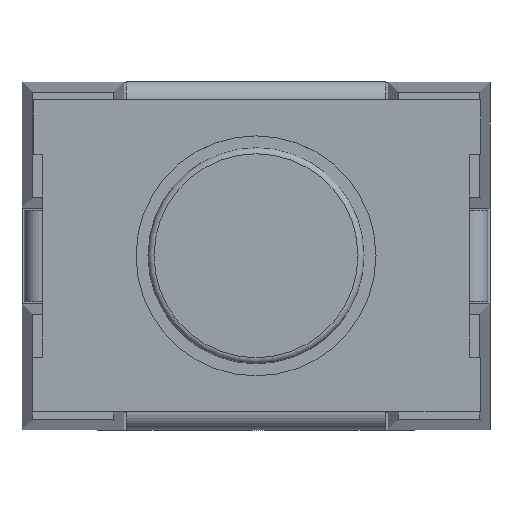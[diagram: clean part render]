
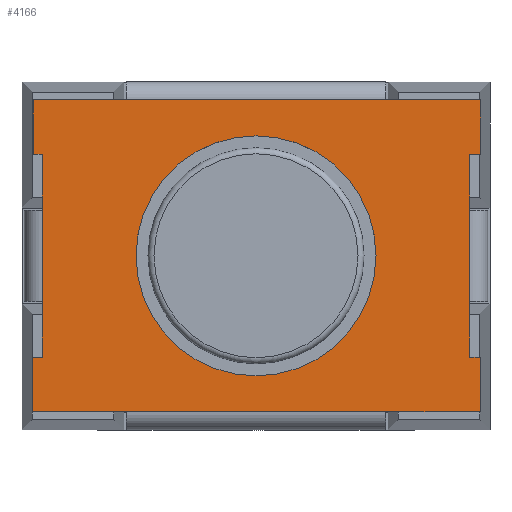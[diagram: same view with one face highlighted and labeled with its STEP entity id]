
A CAD part, top view. The second image highlights one B-rep face of the part: STEP entity #4166.
In plain terms, the highlighted planar face has unit normal (0, 0, 1).
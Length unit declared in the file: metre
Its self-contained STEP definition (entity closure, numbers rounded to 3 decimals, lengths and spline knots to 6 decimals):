
#99=CIRCLE('',#5727,0.001);
#228=LINE('',#7775,#719);
#230=LINE('',#7784,#721);
#232=LINE('',#7793,#723);
#234=LINE('',#7802,#725);
#376=LINE('',#8158,#867);
#379=LINE('',#8164,#870);
#382=LINE('',#8170,#873);
#386=LINE('',#8177,#877);
#393=LINE('',#8190,#884);
#396=LINE('',#8196,#887);
#399=LINE('',#8202,#890);
#403=LINE('',#8209,#894);
#412=LINE('',#8225,#903);
#415=LINE('',#8231,#906);
#419=LINE('',#8239,#910);
#423=LINE('',#8246,#914);
#430=LINE('',#8259,#921);
#434=LINE('',#8267,#925);
#437=LINE('',#8273,#928);
#442=LINE('',#8282,#933);
#719=VECTOR('',#6051,1.);
#721=VECTOR('',#6059,1.);
#723=VECTOR('',#6067,1.);
#725=VECTOR('',#6075,1.);
#867=VECTOR('',#6397,1.);
#870=VECTOR('',#6402,1.);
#873=VECTOR('',#6407,1.);
#877=VECTOR('',#6413,1.);
#884=VECTOR('',#6428,1.);
#887=VECTOR('',#6433,1.);
#890=VECTOR('',#6438,1.);
#894=VECTOR('',#6444,1.);
#903=VECTOR('',#6461,1.);
#906=VECTOR('',#6466,1.);
#910=VECTOR('',#6472,1.);
#914=VECTOR('',#6478,1.);
#921=VECTOR('',#6493,1.);
#925=VECTOR('',#6499,1.);
#928=VECTOR('',#6504,1.);
#933=VECTOR('',#6511,1.);
#1817=ORIENTED_EDGE('',*,*,#2634,.F.);
#1818=ORIENTED_EDGE('',*,*,#2580,.T.);
#1819=ORIENTED_EDGE('',*,*,#2387,.T.);
#1820=ORIENTED_EDGE('',*,*,#2573,.T.);
#1821=ORIENTED_EDGE('',*,*,#2569,.T.);
#1822=ORIENTED_EDGE('',*,*,#2566,.T.);
#1823=ORIENTED_EDGE('',*,*,#2563,.T.);
#1824=ORIENTED_EDGE('',*,*,#2383,.T.);
#1825=ORIENTED_EDGE('',*,*,#2629,.T.);
#1826=ORIENTED_EDGE('',*,*,#2624,.T.);
#1827=ORIENTED_EDGE('',*,*,#2621,.T.);
#1828=ORIENTED_EDGE('',*,*,#2617,.T.);
#1829=ORIENTED_EDGE('',*,*,#2379,.T.);
#1830=ORIENTED_EDGE('',*,*,#2610,.T.);
#1831=ORIENTED_EDGE('',*,*,#2606,.T.);
#1832=ORIENTED_EDGE('',*,*,#2602,.T.);
#1833=ORIENTED_EDGE('',*,*,#2599,.T.);
#1834=ORIENTED_EDGE('',*,*,#2375,.T.);
#1835=ORIENTED_EDGE('',*,*,#2590,.T.);
#1836=ORIENTED_EDGE('',*,*,#2586,.T.);
#1837=ORIENTED_EDGE('',*,*,#2583,.T.);
#2375=EDGE_CURVE('',#2887,#2889,#228,.T.);
#2379=EDGE_CURVE('',#2891,#2893,#230,.T.);
#2383=EDGE_CURVE('',#2895,#2897,#232,.T.);
#2387=EDGE_CURVE('',#2899,#2901,#234,.T.);
#2563=EDGE_CURVE('',#3026,#2895,#376,.T.);
#2566=EDGE_CURVE('',#3028,#3026,#379,.T.);
#2569=EDGE_CURVE('',#3030,#3028,#382,.T.);
#2573=EDGE_CURVE('',#2901,#3030,#386,.T.);
#2580=EDGE_CURVE('',#3034,#2899,#393,.T.);
#2583=EDGE_CURVE('',#3036,#3034,#396,.T.);
#2586=EDGE_CURVE('',#3038,#3036,#399,.T.);
#2590=EDGE_CURVE('',#2889,#3038,#403,.T.);
#2599=EDGE_CURVE('',#3043,#2887,#412,.T.);
#2602=EDGE_CURVE('',#3045,#3043,#415,.T.);
#2606=EDGE_CURVE('',#3048,#3045,#419,.T.);
#2610=EDGE_CURVE('',#2893,#3048,#423,.T.);
#2617=EDGE_CURVE('',#3052,#2891,#430,.T.);
#2621=EDGE_CURVE('',#3055,#3052,#434,.T.);
#2624=EDGE_CURVE('',#3057,#3055,#437,.T.);
#2629=EDGE_CURVE('',#2897,#3057,#442,.T.);
#2634=EDGE_CURVE('',#3060,#3060,#99,.T.);
#2887=VERTEX_POINT('',#7770);
#2889=VERTEX_POINT('',#7774);
#2891=VERTEX_POINT('',#7779);
#2893=VERTEX_POINT('',#7783);
#2895=VERTEX_POINT('',#7788);
#2897=VERTEX_POINT('',#7792);
#2899=VERTEX_POINT('',#7797);
#2901=VERTEX_POINT('',#7801);
#3026=VERTEX_POINT('',#8159);
#3028=VERTEX_POINT('',#8165);
#3030=VERTEX_POINT('',#8171);
#3034=VERTEX_POINT('',#8191);
#3036=VERTEX_POINT('',#8197);
#3038=VERTEX_POINT('',#8203);
#3043=VERTEX_POINT('',#8226);
#3045=VERTEX_POINT('',#8232);
#3048=VERTEX_POINT('',#8240);
#3052=VERTEX_POINT('',#8260);
#3055=VERTEX_POINT('',#8268);
#3057=VERTEX_POINT('',#8274);
#3060=VERTEX_POINT('',#8292);
#3318=EDGE_LOOP('',(#1817));
#3319=EDGE_LOOP('',(#1818,#1819,#1820,#1821,#1822,#1823,#1824,#1825,#1826,
#1827,#1828,#1829,#1830,#1831,#1832,#1833,#1834,#1835,#1836,#1837));
#3545=FACE_BOUND('',#3318,.T.);
#3546=FACE_BOUND('',#3319,.T.);
#3736=PLANE('',#5726);
#4166=ADVANCED_FACE('',(#3545,#3546),#3736,.T.);
#5726=AXIS2_PLACEMENT_3D('',#8290,#6522,#6523);
#5727=AXIS2_PLACEMENT_3D('',#8291,#6524,#6525);
#6051=DIRECTION('',(-1.,0.,0.));
#6059=DIRECTION('',(0.,1.,0.));
#6067=DIRECTION('',(1.,0.,0.));
#6075=DIRECTION('',(0.,-1.,0.));
#6397=DIRECTION('',(1.,0.,0.));
#6402=DIRECTION('',(0.,-1.,0.));
#6407=DIRECTION('',(-1.,0.,0.));
#6413=DIRECTION('',(0.,-1.,0.));
#6428=DIRECTION('',(0.,-1.,0.));
#6433=DIRECTION('',(1.,0.016,0.));
#6438=DIRECTION('',(0.,-1.,0.));
#6444=DIRECTION('',(-1.,0.,0.));
#6461=DIRECTION('',(-1.,0.,0.));
#6466=DIRECTION('',(0.,1.,0.));
#6472=DIRECTION('',(1.,0.,0.));
#6478=DIRECTION('',(0.,1.,0.));
#6493=DIRECTION('',(0.,1.,0.));
#6499=DIRECTION('',(-1.,0.,0.));
#6504=DIRECTION('',(0.,1.,0.));
#6511=DIRECTION('',(1.,0.,0.));
#6522=DIRECTION('',(0.,0.,1.));
#6523=DIRECTION('',(-1.,0.,0.));
#6524=DIRECTION('',(0.,0.,1.));
#6525=DIRECTION('',(-1.,0.,0.));
#7770=CARTESIAN_POINT('',(-0.125962,-0.063352,0.01105));
#7774=CARTESIAN_POINT('',(-0.128122,-0.063352,0.01105));
#7775=CARTESIAN_POINT('',(-0.128122,-0.063352,0.01105));
#7779=CARTESIAN_POINT('',(-0.125262,-0.065032,0.01105));
#7783=CARTESIAN_POINT('',(-0.125262,-0.064272,0.01105));
#7784=CARTESIAN_POINT('',(-0.125262,-0.064272,0.01105));
#7788=CARTESIAN_POINT('',(-0.128122,-0.065952,0.01105));
#7792=CARTESIAN_POINT('',(-0.125962,-0.065952,0.01105));
#7793=CARTESIAN_POINT('',(-0.125962,-0.065952,0.01105));
#7797=CARTESIAN_POINT('',(-0.128822,-0.064272,0.01105));
#7801=CARTESIAN_POINT('',(-0.128822,-0.065032,0.01105));
#7802=CARTESIAN_POINT('',(-0.128822,-0.065032,0.01105));
#8158=CARTESIAN_POINT('',(-0.128122,-0.065952,0.01105));
#8159=CARTESIAN_POINT('',(-0.128906,-0.065952,0.01105));
#8164=CARTESIAN_POINT('',(-0.128906,-0.065498,0.01105));
#8165=CARTESIAN_POINT('',(-0.128906,-0.065498,0.01105));
#8170=CARTESIAN_POINT('',(-0.128906,-0.065498,0.01105));
#8171=CARTESIAN_POINT('',(-0.128822,-0.065498,0.01105));
#8177=CARTESIAN_POINT('',(-0.128822,-0.065498,0.01105));
#8190=CARTESIAN_POINT('',(-0.128822,-0.063806,0.01105));
#8191=CARTESIAN_POINT('',(-0.128822,-0.063806,0.01105));
#8196=CARTESIAN_POINT('',(-0.128897,-0.063807,0.01105));
#8197=CARTESIAN_POINT('',(-0.128897,-0.063807,0.01105));
#8202=CARTESIAN_POINT('',(-0.128897,-0.063807,0.01105));
#8203=CARTESIAN_POINT('',(-0.128897,-0.063352,0.01105));
#8209=CARTESIAN_POINT('',(-0.128122,-0.063352,0.01105));
#8225=CARTESIAN_POINT('',(-0.125962,-0.063352,0.01105));
#8226=CARTESIAN_POINT('',(-0.125171,-0.063352,0.01105));
#8231=CARTESIAN_POINT('',(-0.125171,-0.063806,0.01105));
#8232=CARTESIAN_POINT('',(-0.125171,-0.063806,0.01105));
#8239=CARTESIAN_POINT('',(-0.125171,-0.063806,0.01105));
#8240=CARTESIAN_POINT('',(-0.125262,-0.063806,0.01105));
#8246=CARTESIAN_POINT('',(-0.125262,-0.063806,0.01105));
#8259=CARTESIAN_POINT('',(-0.125262,-0.065498,0.01105));
#8260=CARTESIAN_POINT('',(-0.125262,-0.065498,0.01105));
#8267=CARTESIAN_POINT('',(-0.125171,-0.065498,0.01105));
#8268=CARTESIAN_POINT('',(-0.125171,-0.065498,0.01105));
#8273=CARTESIAN_POINT('',(-0.125171,-0.065952,0.01105));
#8274=CARTESIAN_POINT('',(-0.125171,-0.065952,0.01105));
#8282=CARTESIAN_POINT('',(-0.125962,-0.065952,0.01105));
#8290=CARTESIAN_POINT('',(-0.127042,-0.064652,0.01105));
#8291=CARTESIAN_POINT('',(-0.127042,-0.064652,0.01105));
#8292=CARTESIAN_POINT('',(-0.128042,-0.064652,0.01105));
